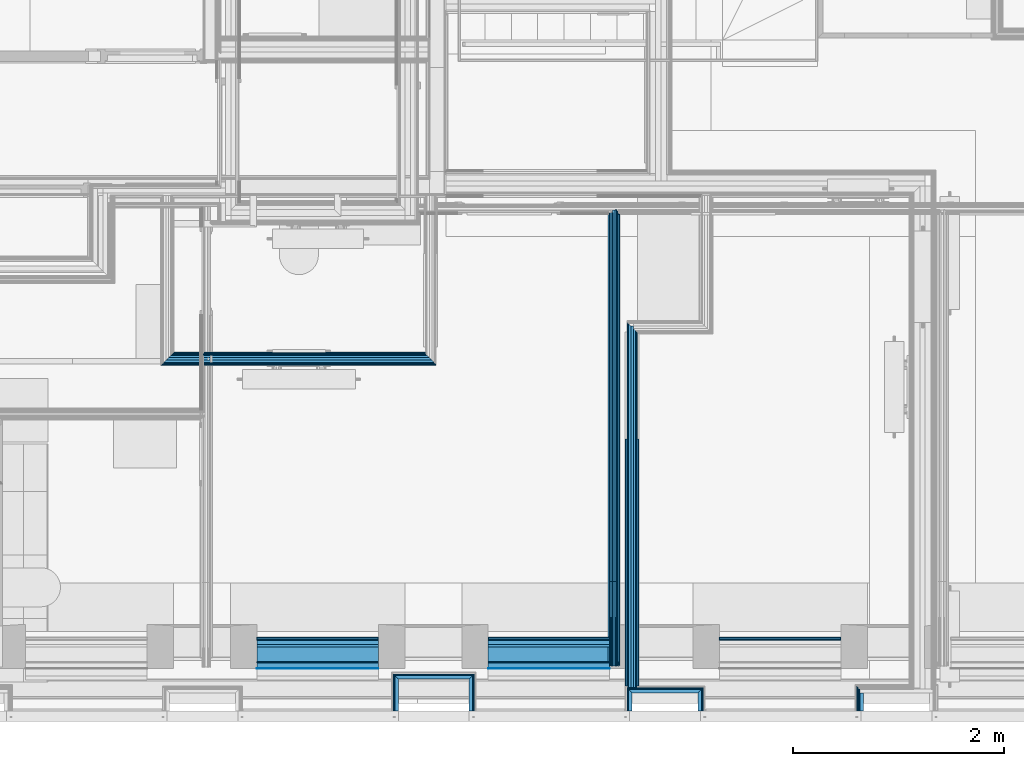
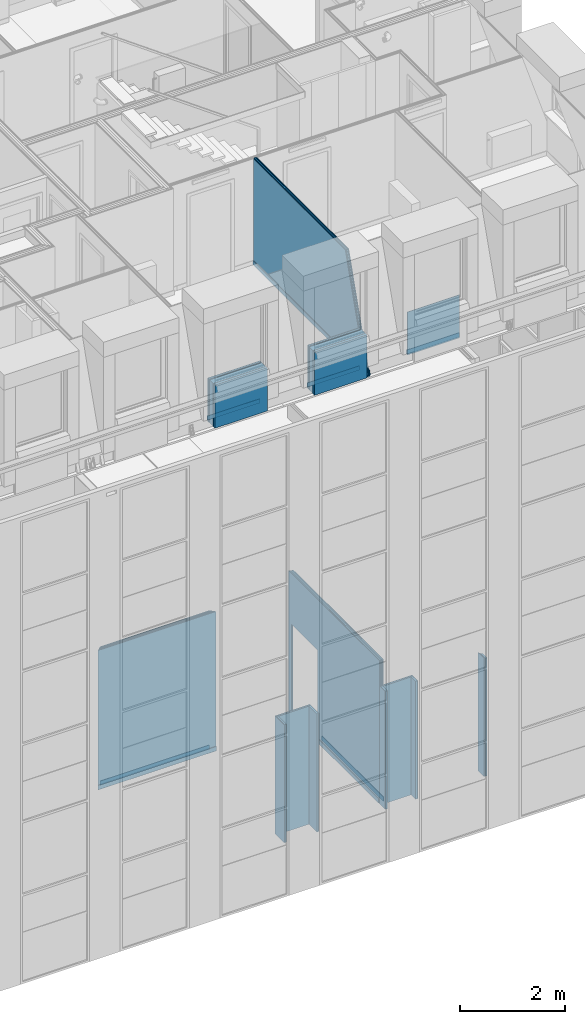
# One storey, part 34 of 169: 54 building element parts, 2 openings, 13 elements without a shape of their own.
"""IFC2X3 building model written with IfcOpenShell, lengths in metres."""

from ifc_helpers import new_model, entity, si_unit, converted_unit, derived_unit, money_unit, direction, frame, frame_2d, origin_with_axes, place, context, subcontext, project, spatial, polyline, rectangle, outline, extrude, clip, halfspace, material, type_object, element, aggregate, save


model = new_model("IFC2X3")

# Units and contexts
model_context = context("Model", 3, precision=1e-05, world=origin_with_axes(), true_north=direction((0.0, 1.0)))
body_context = subcontext(model_context, "Body", "Model", "MODEL_VIEW", scale=1.0)
ifc_project = project(units=[si_unit("LENGTHUNIT", "METRE"), si_unit("AREAUNIT", "SQUARE_METRE"), si_unit("VOLUMEUNIT", "CUBIC_METRE"), si_unit("ABSORBEDDOSEUNIT", "GRAY"), si_unit("AMOUNTOFSUBSTANCEUNIT", "MOLE"), si_unit("DOSEEQUIVALENTUNIT", "SIEVERT"), si_unit("ELECTRICCAPACITANCEUNIT", "FARAD"), si_unit("ELECTRICCHARGEUNIT", "COULOMB"), si_unit("ELECTRICCONDUCTANCEUNIT", "SIEMENS"), si_unit("ELECTRICCURRENTUNIT", "AMPERE"), si_unit("ELECTRICRESISTANCEUNIT", "OHM"), si_unit("ELECTRICVOLTAGEUNIT", "VOLT"), si_unit("ENERGYUNIT", "JOULE"), si_unit("FORCEUNIT", "NEWTON"), si_unit("FREQUENCYUNIT", "HERTZ"), si_unit("ILLUMINANCEUNIT", "LUX"), si_unit("INDUCTANCEUNIT", "HENRY"), si_unit("LUMINOUSFLUXUNIT", "LUMEN"), si_unit("LUMINOUSINTENSITYUNIT", "CANDELA"), si_unit("MAGNETICFLUXDENSITYUNIT", "TESLA"), si_unit("MAGNETICFLUXUNIT", "WEBER"), si_unit("MASSUNIT", "GRAM"), converted_unit("PLANEANGLEUNIT", "degree", entity("IfcReal", 0.0174532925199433), si_unit("PLANEANGLEUNIT", "RADIAN"), dimensions=[0, 0, 0, 0, 0, 0, 0]), si_unit("POWERUNIT", "WATT"), si_unit("PRESSUREUNIT", "PASCAL"), si_unit("RADIOACTIVITYUNIT", "BECQUEREL"), si_unit("SOLIDANGLEUNIT", "STERADIAN"), si_unit("THERMODYNAMICTEMPERATUREUNIT", "KELVIN"), si_unit("TIMEUNIT", "SECOND"), derived_unit("ACCELERATIONUNIT", [(si_unit("LENGTHUNIT", "METRE"), 1), (si_unit("TIMEUNIT", "SECOND"), -2)]), derived_unit("ANGULARVELOCITYUNIT", [(converted_unit("PLANEANGLEUNIT", "degree", entity("IfcReal", 0.0174532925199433), si_unit("PLANEANGLEUNIT", "RADIAN"), dimensions=[0, 0, 0, 0, 0, 0, 0]), 1), (si_unit("TIMEUNIT", "SECOND"), -1)]), derived_unit("CURVATUREUNIT", [(converted_unit("PLANEANGLEUNIT", "degree", entity("IfcReal", 0.0174532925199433), si_unit("PLANEANGLEUNIT", "RADIAN"), dimensions=[0, 0, 0, 0, 0, 0, 0]), 1), (si_unit("LENGTHUNIT", "METRE"), -1)]), derived_unit("DYNAMICVISCOSITYUNIT", [(si_unit("PRESSUREUNIT", "PASCAL"), 1), (si_unit("TIMEUNIT", "SECOND"), 1)]), derived_unit("HEATFLUXDENSITYUNIT", [(si_unit("POWERUNIT", "WATT"), 1), (si_unit("LENGTHUNIT", "METRE"), -2)]), derived_unit("HEATINGVALUEUNIT", [(si_unit("ENERGYUNIT", "JOULE"), 1), (si_unit("MASSUNIT", "GRAM"), -1)]), derived_unit("INTEGERCOUNTRATEUNIT", [(si_unit("TIMEUNIT", "SECOND"), -1)]), derived_unit("IONCONCENTRATIONUNIT", [(si_unit("MASSUNIT", "GRAM"), 1), (si_unit("VOLUMEUNIT", "CUBIC_METRE"), -1)]), derived_unit("ISOTHERMALMOISTURECAPACITYUNIT", [(si_unit("VOLUMEUNIT", "CUBIC_METRE"), 1), (si_unit("MASSUNIT", "GRAM"), -1)]), derived_unit("KINEMATICVISCOSITYUNIT", [(si_unit("AREAUNIT", "SQUARE_METRE"), 1), (si_unit("TIMEUNIT", "SECOND"), -1)]), derived_unit("LINEARFORCEUNIT", [(si_unit("FORCEUNIT", "NEWTON"), 1), (si_unit("LENGTHUNIT", "METRE"), -1)]), derived_unit("LINEARMOMENTUNIT", [(si_unit("FORCEUNIT", "NEWTON"), 1), (si_unit("LENGTHUNIT", "METRE"), -1)]), derived_unit("LINEARSTIFFNESSUNIT", [(si_unit("FORCEUNIT", "NEWTON"), 1), (si_unit("LENGTHUNIT", "METRE"), -1)]), derived_unit("LINEARVELOCITYUNIT", [(si_unit("LENGTHUNIT", "METRE"), 1), (si_unit("TIMEUNIT", "SECOND"), -1)]), derived_unit("LUMINOUSINTENSITYDISTRIBUTIONUNIT", [(si_unit("LUMINOUSINTENSITYUNIT", "CANDELA"), 1), (si_unit("LUMINOUSFLUXUNIT", "LUMEN"), -1)]), derived_unit("MASSDENSITYUNIT", [(si_unit("MASSUNIT", "GRAM"), 1), (si_unit("VOLUMEUNIT", "CUBIC_METRE"), -1)]), derived_unit("MASSFLOWRATEUNIT", [(si_unit("MASSUNIT", "GRAM"), 1), (si_unit("TIMEUNIT", "SECOND"), -1)]), derived_unit("MASSPERLENGTHUNIT", [(si_unit("MASSUNIT", "GRAM"), 1), (si_unit("LENGTHUNIT", "METRE"), -1)]), derived_unit("MODULUSOFELASTICITYUNIT", [(si_unit("FORCEUNIT", "NEWTON"), 1), (si_unit("AREAUNIT", "SQUARE_METRE"), -1)]), derived_unit("MODULUSOFLINEARSUBGRADEREACTIONUNIT", [(si_unit("FORCEUNIT", "NEWTON"), 1), (si_unit("LENGTHUNIT", "METRE"), -2)]), derived_unit("MODULUSOFROTATIONALSUBGRADEREACTIONUNIT", [(si_unit("FORCEUNIT", "NEWTON"), 1), (si_unit("LENGTHUNIT", "METRE"), 1)]), derived_unit("MODULUSOFSUBGRADEREACTIONUNIT", [(si_unit("FORCEUNIT", "NEWTON"), 1), (si_unit("VOLUMEUNIT", "CUBIC_METRE"), -1)]), derived_unit("MOISTUREDIFFUSIVITYUNIT", [(si_unit("VOLUMEUNIT", "CUBIC_METRE"), 1), (si_unit("TIMEUNIT", "SECOND"), -1)]), derived_unit("MOLECULARWEIGHTUNIT", [(si_unit("MASSUNIT", "GRAM"), 1), (si_unit("AMOUNTOFSUBSTANCEUNIT", "MOLE"), -1)]), derived_unit("PLANARFORCEUNIT", [(si_unit("FORCEUNIT", "NEWTON"), 1), (si_unit("LENGTHUNIT", "METRE"), -2)]), derived_unit("ROTATIONALFREQUENCYUNIT", [(si_unit("TIMEUNIT", "SECOND"), -1)]), derived_unit("ROTATIONALMASSUNIT", [(si_unit("MASSUNIT", "GRAM"), 1), (si_unit("LENGTHUNIT", "METRE"), 2)]), derived_unit("ROTATIONALSTIFFNESSUNIT", [(si_unit("FORCEUNIT", "NEWTON"), 1), (si_unit("LENGTHUNIT", "METRE"), 1), (converted_unit("PLANEANGLEUNIT", "degree", entity("IfcReal", 0.0174532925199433), si_unit("PLANEANGLEUNIT", "RADIAN"), dimensions=[0, 0, 0, 0, 0, 0, 0]), -1)]), derived_unit("SECTIONAREAINTEGRALUNIT", [(si_unit("LENGTHUNIT", "METRE"), 5)]), derived_unit("SECTIONMODULUSUNIT", [(si_unit("LENGTHUNIT", "METRE"), 3)]), derived_unit("SHEARMODULUSUNIT", [(si_unit("FORCEUNIT", "NEWTON"), 1), (si_unit("AREAUNIT", "SQUARE_METRE"), -1)]), derived_unit("SOUNDPOWERUNIT", [(si_unit("ENERGYUNIT", "JOULE"), 1), (si_unit("TIMEUNIT", "SECOND"), -1)]), derived_unit("SPECIFICHEATCAPACITYUNIT", [(si_unit("FORCEUNIT", "NEWTON"), 1), (si_unit("MASSUNIT", "GRAM"), -1), (si_unit("THERMODYNAMICTEMPERATUREUNIT", "KELVIN"), -1)]), derived_unit("TEMPERATUREGRADIENTUNIT", [(si_unit("THERMODYNAMICTEMPERATUREUNIT", "KELVIN"), 1), (si_unit("LENGTHUNIT", "METRE"), -1)]), derived_unit("THERMALADMITTANCEUNIT", [(si_unit("POWERUNIT", "WATT"), 1), (si_unit("AREAUNIT", "SQUARE_METRE"), -1), (si_unit("THERMODYNAMICTEMPERATUREUNIT", "KELVIN"), -1)]), derived_unit("THERMALCONDUCTANCEUNIT", [(si_unit("POWERUNIT", "WATT"), 1), (si_unit("LENGTHUNIT", "METRE"), -1), (si_unit("THERMODYNAMICTEMPERATUREUNIT", "KELVIN"), -1)]), derived_unit("THERMALEXPANSIONCOEFFICIENTUNIT", [(si_unit("THERMODYNAMICTEMPERATUREUNIT", "KELVIN"), -1)]), derived_unit("THERMALRESISTANCEUNIT", [(si_unit("AREAUNIT", "SQUARE_METRE"), 1), (si_unit("POWERUNIT", "WATT"), -1)]), derived_unit("THERMALTRANSMITTANCEUNIT", [(si_unit("POWERUNIT", "WATT"), 1), (si_unit("AREAUNIT", "SQUARE_METRE"), -1), (si_unit("THERMODYNAMICTEMPERATUREUNIT", "KELVIN"), -1)]), derived_unit("TORQUEUNIT", [(si_unit("FORCEUNIT", "NEWTON"), 1), (si_unit("LENGTHUNIT", "METRE"), 1)]), derived_unit("VAPORPERMEABILITYUNIT", [(si_unit("MASSUNIT", "GRAM"), 1), (si_unit("TIMEUNIT", "SECOND"), -1)]), derived_unit("VOLUMETRICFLOWRATEUNIT", [(si_unit("VOLUMEUNIT", "CUBIC_METRE"), 1), (si_unit("TIMEUNIT", "SECOND"), -1)]), derived_unit("WARPINGCONSTANTUNIT", [(si_unit("LENGTHUNIT", "METRE"), 6)]), derived_unit("WARPINGMOMENTUNIT", [(si_unit("FORCEUNIT", "NEWTON"), 1), (si_unit("LENGTHUNIT", "METRE"), 2)]), money_unit("GBP")], contexts=[model_context])

# Site, building, storey
site_placement = place(None, origin_with_axes())
site = spatial("IfcSite", under=ifc_project, at=site_placement, Name="Site", CompositionType="ELEMENT")
building_placement = place(site_placement, origin_with_axes())
building = spatial("IfcBuilding", under=site, at=building_placement, Name="Building01", CompositionType="ELEMENT")
storey_placement = place(building_placement, frame((0.0, 0.0, 5.15), z_axis=(0.0, 0.0, 1.0), x_axis=(1.0, 0.0, 0.0)))
storey = spatial("IfcBuildingStorey", under=building, at=storey_placement, Name="1F", CompositionType="ELEMENT", Elevation=5.15)

# Wall, building element parts
wall_type_1 = type_object("IfcWallType", Name="SHE_A-Walls_Type06d_ExternalWallInsulation_48mm", PredefinedType="NOTDEFINED")
wall_1_placement = place(storey_placement, frame((17.55, 0.1, 0.0), z_axis=(0.0, 0.0, 1.0), x_axis=(0.0, 1.0, 0.0)))
wall_1 = element("IfcWall", 1, at=wall_1_placement, inside=storey, type_object=wall_type_1, Name="6D", ObjectType="SHE_A-Walls_Type06d_ExternalWallInsulation_48mm")
ifc_material_1 = material(Name="A_BSUK_Insulation")
placement_1 = place(wall_1_placement, origin_with_axes())
building_element_part_1 = element("IfcBuildingElementPart", 2, at=placement_1, material=ifc_material_1, Name="1", context=body_context, shape_type="SweptSolid", body=[
    extrude(outline(polyline([(0.336, 0.036), (0.0, 0.036), (0.0, 0.0), (0.3, 0.0), (0.336, 0.036)])), origin_with_axes(), (0.0, 0.0, 1.0), 2.74),
])
ifc_material_2 = material(Name="A_BSUK_WallInternal_Finishes_Plasterboard")
building_element_part_2 = element("IfcBuildingElementPart", 3, at=placement_1, material=ifc_material_2, Name="2", context=body_context, shape_type="SweptSolid", body=[
    extrude(outline(polyline([(0.348, 0.048), (0.0, 0.048), (0.0, 0.035), (0.335, 0.035), (0.348, 0.048)])), origin_with_axes(), (0.0, 0.0, 1.0), 2.74),
])
aggregate(wall_1, [building_element_part_1, building_element_part_2])

wall_2_placement = place(storey_placement, frame((17.55, 0.4, 0.0), z_axis=(0.0, 0.0, 1.0), x_axis=(1.0, 0.0, 0.0)))
wall_2 = element("IfcWall", 4, at=wall_2_placement, inside=storey, type_object=wall_type_1, Name="6D", ObjectType="SHE_A-Walls_Type06d_ExternalWallInsulation_48mm")
placement_2 = place(wall_2_placement, origin_with_axes())
building_element_part_3 = element("IfcBuildingElementPart", 5, at=placement_2, material=ifc_material_1, Name="1", context=body_context, shape_type="SweptSolid", body=[
    extrude(outline(polyline([(0.706, 0.036), (-0.036, 0.036), (0.0, 0.0), (0.67, 0.0), (0.706, 0.036)])), origin_with_axes(), (0.0, 0.0, 1.0), 2.74),
])
building_element_part_4 = element("IfcBuildingElementPart", 6, at=placement_2, material=ifc_material_2, Name="2", context=body_context, shape_type="SweptSolid", body=[
    extrude(outline(polyline([(0.718, 0.048), (-0.048, 0.048), (-0.035, 0.035), (0.705, 0.035), (0.718, 0.048)])), origin_with_axes(), (0.0, 0.0, 1.0), 2.74),
])
aggregate(wall_2, [building_element_part_3, building_element_part_4])

wall_3_placement = place(storey_placement, frame((18.22, 0.4, 0.0), z_axis=(0.0, 0.0, 1.0), x_axis=(0.0, -1.0, 0.0)))
wall_3 = element("IfcWall", 7, at=wall_3_placement, inside=storey, type_object=wall_type_1, Name="6D", ObjectType="SHE_A-Walls_Type06d_ExternalWallInsulation_48mm")
placement_3 = place(wall_3_placement, origin_with_axes())
building_element_part_5 = element("IfcBuildingElementPart", 8, at=placement_3, material=ifc_material_1, Name="1", context=body_context, shape_type="SweptSolid", body=[
    extrude(outline(polyline([(-0.036, 0.036), (0.0, 0.0), (0.3, 0.0), (0.3, 0.036), (-0.036, 0.036)])), origin_with_axes(), (0.0, 0.0, 1.0), 2.74),
])
building_element_part_6 = element("IfcBuildingElementPart", 9, at=placement_3, material=ifc_material_2, Name="2", context=body_context, shape_type="SweptSolid", body=[
    extrude(outline(polyline([(-0.048, 0.048), (-0.035, 0.035), (0.3, 0.035), (0.3, 0.048), (-0.048, 0.048)])), origin_with_axes(), (0.0, 0.0, 1.0), 2.74),
])
aggregate(wall_3, [building_element_part_5, building_element_part_6])

# Wall, openings, building element parts
wall_type_2 = type_object("IfcWallType", Name="SHE_A-Walls_Type05a_Partition_95mm_tall", PredefinedType="NOTDEFINED")
wall_4_placement = place(storey_placement, frame((19.75, 3.745, 0.0), z_axis=(0.0, 0.0, 1.0), x_axis=(0.0, -1.0, 0.0)))
wall_4 = element("IfcWall", 10, at=wall_4_placement, inside=storey, type_object=wall_type_2, Name="5A", ObjectType="SHE_A-Walls_Type05a_Partition_95mm_tall")
opening_1_placement = place(wall_4_placement, frame((0.087, -0.035, 0.0), z_axis=(0.0, 0.0, 1.0), x_axis=(1.0, 0.0, 0.0)))
element("IfcOpeningElement", 11, at=opening_1_placement, cuts=wall_4, Name="Opening", ObjectType="Recess", context=body_context, shape_type="SweptSolid", body=[
    extrude(rectangle(XDim=2.142, YDim=0.984, at=frame_2d((-0.492, 1.071), x_axis=(0.0, 1.0))), frame((0.0, 0.0, 0.0), z_axis=(0.0, 1.0, 0.0), x_axis=(-1.0, 0.0, 0.0)), (0.0, 0.0, 1.0), 0.035),
])
opening_2_placement = place(wall_4_placement, frame((0.099, -0.05, 0.0), z_axis=(0.0, 0.0, 1.0), x_axis=(1.0, 0.0, 0.0)))
element("IfcOpeningElement", 12, at=opening_2_placement, cuts=wall_4, Name="Opening", ObjectType="Opening", context=body_context, shape_type="SweptSolid", body=[
    extrude(rectangle(XDim=0.9, YDim=2.127, at=frame_2d((-0.45, 1.0635), x_axis=(-1.0, 0.0))), frame((0.0, 0.0, 0.0), z_axis=(0.0, 1.0, 0.0), x_axis=(-1.0, 0.0, 0.0)), (0.0, 0.0, 1.0), 0.125),
    extrude(rectangle(XDim=0.9, YDim=2.142, at=frame_2d((-0.45, 1.056), x_axis=(-1.0, 0.0))), frame((0.0, 0.015, 0.0), z_axis=(0.0, 1.0, 0.0), x_axis=(-1.0, 0.0, 0.0)), (0.0, 0.0, 1.0), 0.012),
    extrude(rectangle(XDim=2.142, YDim=0.984, at=frame_2d((-0.48, 1.071), x_axis=(0.0, -1.0))), frame((0.0, 0.0, 0.0), z_axis=(0.0, 1.0, 0.0), x_axis=(-1.0, 0.0, 0.0)), (0.0, 0.0, 1.0), 0.015),
    extrude(rectangle(XDim=0.9, YDim=2.142, at=frame_2d((-0.45, 1.056), x_axis=(-1.0, 0.0))), frame((0.0, 0.027, 0.0), z_axis=(0.0, 1.0, 0.0), x_axis=(-1.0, 0.0, 0.0)), (0.0, 0.0, 1.0), 0.023),
    extrude(outline(polyline([(0.012, 2.127), (0.012, 2.142), (-0.972, 2.142), (-0.972, 0.0), (-0.494219, 0.0), (-0.494219, -0.015), (0.589781, -0.015), (0.589781, 2.127), (0.012, 2.127)])), frame((0.0, 0.05, 0.0), z_axis=(0.0, 1.0, 0.0), x_axis=(-1.0, 0.0, 0.0)), (0.0, 0.0, 1.0), 0.025),
    extrude(outline(polyline([(0.012, 2.127), (0.012, 2.142), (-0.972, 2.142), (-0.972, 0.0), (-0.494219, 0.0), (-0.494219, -0.015), (0.589781, -0.015), (0.589781, 2.127), (0.012, 2.127)])), frame((0.0, 0.075, 0.0), z_axis=(0.0, 1.0, 0.0), x_axis=(-1.0, 0.0, 0.0)), (0.0, 0.0, 1.0), 0.023),
    extrude(outline(polyline([(-0.972, 2.142), (-0.972, 0.0), (-0.9, 0.0), (-0.9, -0.015), (0.0, -0.015), (0.0, 0.0), (0.589781, 0.0), (0.589781, 2.142), (-0.972, 2.142)])), frame((0.0, 0.098, 0.0), z_axis=(0.0, 1.0, 0.0), x_axis=(-1.0, 0.0, 0.0)), (0.0, 0.0, 1.0), 0.012),
    extrude(rectangle(XDim=2.142, YDim=0.984, at=frame_2d((-0.48, 1.071), x_axis=(0.0, -1.0))), frame((0.0, 0.11, 0.0), z_axis=(0.0, 1.0, 0.0), x_axis=(-1.0, 0.0, 0.0)), (0.0, 0.0, 1.0), 0.015),
])
ifc_material_3 = material(Name="A_BSUK_Walls_Timber")
placement_4 = place(wall_4_placement, origin_with_axes())
building_element_part_7 = element("IfcBuildingElementPart", 13, at=placement_4, material=ifc_material_3, Name="1", context=body_context, shape_type="SweptSolid", body=[
    extrude(rectangle(XDim=2.344, YDim=0.015, at=frame_2d((2.24, -0.0425), x_axis=(-1.0, 0.0))), frame((0.0, 0.0, 0.015), z_axis=(0.0, 0.0, 1.0), x_axis=(1.0, 0.0, 0.0)), (0.0, 0.0, 1.0), 0.1),
])
building_element_part_8 = element("IfcBuildingElementPart", 14, at=placement_4, material=ifc_material_2, Name="2", context=body_context, shape_type="SweptSolid", body=[
    extrude(outline(polyline([(3.427, -0.023), (-0.023, -0.023), (-0.035, -0.035), (3.427, -0.035), (3.427, -0.023)])), origin_with_axes(), (0.0, 0.0, 1.0), 3.32),
])
ifc_material_4 = material(Name="Air Cavity")
building_element_part_9 = element("IfcBuildingElementPart", 15, at=placement_4, material=ifc_material_4, Name="3", context=body_context, shape_type="SweptSolid", body=[
    extrude(outline(polyline([(3.427, 0.0), (0.0, 0.0), (-0.023, -0.023), (3.427, -0.023), (3.427, 0.0)])), origin_with_axes(), (0.0, 0.0, 1.0), 3.32),
])
building_element_part_10 = element("IfcBuildingElementPart", 16, at=placement_4, material=ifc_material_1, Name="4", context=body_context, shape_type="SweptSolid", body=[
    extrude(rectangle(XDim=3.427, YDim=0.025, at=frame_2d((1.7135, 0.0125), x_axis=(-1.0, 0.0))), origin_with_axes(), (0.0, 0.0, 1.0), 3.32),
])
building_element_part_11 = element("IfcBuildingElementPart", 17, at=placement_4, material=ifc_material_4, Name="5", context=body_context, shape_type="SweptSolid", body=[
    extrude(rectangle(XDim=3.427, YDim=0.023, at=frame_2d((1.7135, 0.0365), x_axis=(-1.0, 0.0))), origin_with_axes(), (0.0, 0.0, 1.0), 3.32),
])
building_element_part_12 = element("IfcBuildingElementPart", 18, at=placement_4, material=ifc_material_2, Name="6", context=body_context, shape_type="SweptSolid", body=[
    extrude(outline(polyline([(3.427, 0.06), (0.06, 0.06), (0.048, 0.048), (3.427, 0.048), (3.427, 0.06)])), origin_with_axes(), (0.0, 0.0, 1.0), 3.32),
])
building_element_part_13 = element("IfcBuildingElementPart", 19, at=placement_4, material=ifc_material_3, Name="7", context=body_context, shape_type="SweptSolid", body=[
    extrude(rectangle(XDim=2.344, YDim=0.015, at=frame_2d((2.24, 0.0675), x_axis=(-1.0, 0.0))), frame((0.0, 0.0, 0.015), z_axis=(0.0, 0.0, 1.0), x_axis=(1.0, 0.0, 0.0)), (0.0, 0.0, 1.0), 0.1),
])
aggregate(wall_4, [building_element_part_7, building_element_part_8, building_element_part_9, building_element_part_10, building_element_part_11, building_element_part_12, building_element_part_13])

# Wall, building element parts
wall_5_placement = place(storey_placement, frame((17.8675, 3.42, 0.0), z_axis=(0.0, 0.0, 1.0), x_axis=(-1.0, 0.0, 0.0)))
wall_5 = element("IfcWall", 20, at=wall_5_placement, inside=storey, type_object=wall_type_2, Name="5A", ObjectType="SHE_A-Walls_Type05a_Partition_95mm_tall")
placement_5 = place(wall_5_placement, origin_with_axes())
building_element_part_14 = element("IfcBuildingElementPart", 21, at=placement_5, material=ifc_material_3, Name="1", context=body_context, shape_type="SweptSolid", body=[
    extrude(outline(polyline([(2.46, -0.06), (0.06, -0.06), (0.06, -0.075), (2.445, -0.075), (2.46, -0.06)])), frame((0.0, 0.0, 0.015), z_axis=(0.0, 0.0, 1.0), x_axis=(1.0, 0.0, 0.0)), (0.0, 0.0, 1.0), 0.1),
])
building_element_part_15 = element("IfcBuildingElementPart", 22, at=placement_5, material=ifc_material_2, Name="2", context=body_context, shape_type="SweptSolid", body=[
    extrude(outline(polyline([(2.472, -0.048), (0.048, -0.048), (0.06, -0.06), (2.46, -0.06), (2.472, -0.048)])), origin_with_axes(), (0.0, 0.0, 1.0), 3.24),
])
building_element_part_16 = element("IfcBuildingElementPart", 23, at=placement_5, material=ifc_material_4, Name="3", context=body_context, shape_type="SweptSolid", body=[
    extrude(outline(polyline([(2.495, -0.025), (0.025, -0.025), (0.048, -0.048), (2.472, -0.048), (2.495, -0.025)])), origin_with_axes(), (0.0, 0.0, 1.0), 3.24),
])
building_element_part_17 = element("IfcBuildingElementPart", 24, at=placement_5, material=ifc_material_1, Name="4", context=body_context, shape_type="SweptSolid", body=[
    extrude(outline(polyline([(2.52, 0.0), (0.0, 0.0), (0.025, -0.025), (2.495, -0.025), (2.52, 0.0)])), origin_with_axes(), (0.0, 0.0, 1.0), 3.24),
])
building_element_part_18 = element("IfcBuildingElementPart", 25, at=placement_5, material=ifc_material_4, Name="5", context=body_context, shape_type="SweptSolid", body=[
    extrude(outline(polyline([(2.543, 0.023), (-0.023, 0.023), (0.0, 0.0), (2.52, 0.0), (2.543, 0.023)])), origin_with_axes(), (0.0, 0.0, 1.0), 3.24),
])
building_element_part_19 = element("IfcBuildingElementPart", 26, at=placement_5, material=ifc_material_2, Name="6", context=body_context, shape_type="SweptSolid", body=[
    extrude(outline(polyline([(2.555, 0.035), (-0.035, 0.035), (-0.023, 0.023), (2.543, 0.023), (2.555, 0.035)])), origin_with_axes(), (0.0, 0.0, 1.0), 3.24),
])
building_element_part_20 = element("IfcBuildingElementPart", 27, at=placement_5, material=ifc_material_3, Name="7", context=body_context, shape_type="SweptSolid", body=[
    extrude(outline(polyline([(2.57, 0.05), (-0.035, 0.05), (-0.035, 0.035), (2.555, 0.035), (2.57, 0.05)])), frame((0.0, 0.0, 0.015), z_axis=(0.0, 0.0, 1.0), x_axis=(1.0, 0.0, 0.0)), (0.0, 0.0, 1.0), 0.1),
])
aggregate(wall_5, [building_element_part_14, building_element_part_15, building_element_part_16, building_element_part_17, building_element_part_18, building_element_part_19, building_element_part_20])

wall_type_3 = type_object("IfcWallType", Name="SHE_A-Walls_Type06f_ExternalWallInsulation_48+15mm", PredefinedType="NOTDEFINED")
wall_6_placement = place(storey_placement, frame((21.953, 0.1, 0.0), z_axis=(0.0, 0.0, 1.0), x_axis=(0.0, 1.0, 0.0)))
wall_6 = element("IfcWall", 28, at=wall_6_placement, inside=storey, type_object=wall_type_3, Name="6F", ObjectType="SHE_A-Walls_Type06f_ExternalWallInsulation_48+15mm")
placement_6 = place(wall_6_placement, origin_with_axes())
building_element_part_21 = element("IfcBuildingElementPart", 29, at=placement_6, material=ifc_material_1, Name="1", context=body_context, shape_type="SweptSolid", body=[
    extrude(rectangle(XDim=0.17, YDim=0.036, at=frame_2d((0.085, 0.018), x_axis=(-1.0, 0.0))), origin_with_axes(), (0.0, 0.0, 1.0), 2.74),
])
building_element_part_22 = element("IfcBuildingElementPart", 30, at=placement_6, material=ifc_material_2, Name="2", context=body_context, shape_type="SweptSolid", body=[
    extrude(rectangle(XDim=0.206, YDim=0.012, at=frame_2d((0.103, 0.042), x_axis=(-1.0, 0.0))), origin_with_axes(), (0.0, 0.0, 1.0), 2.74),
])
building_element_part_23 = element("IfcBuildingElementPart", 31, at=placement_6, material=ifc_material_2, Name="3", context=body_context, shape_type="SweptSolid", body=[
    extrude(outline(polyline([(0.233, 0.063), (0.0, 0.063), (0.0, 0.048), (0.218, 0.048), (0.233, 0.063)])), origin_with_axes(), (0.0, 0.0, 1.0), 2.74),
])
aggregate(wall_6, [building_element_part_21, building_element_part_22, building_element_part_23])

wall_7_placement = place(storey_placement, frame((19.763, 0.1, 0.0), z_axis=(0.0, 0.0, 1.0), x_axis=(0.0, 1.0, 0.0)))
wall_7 = element("IfcWall", 32, at=wall_7_placement, inside=storey, type_object=wall_type_1, Name="6D", ObjectType="SHE_A-Walls_Type06d_ExternalWallInsulation_48mm")
placement_7 = place(wall_7_placement, origin_with_axes())
building_element_part_24 = element("IfcBuildingElementPart", 33, at=placement_7, material=ifc_material_1, Name="1", context=body_context, shape_type="SweptSolid", body=[
    extrude(outline(polyline([(0.206, 0.036), (0.0, 0.036), (0.0, 0.0), (0.17, 0.0), (0.206, 0.036)])), origin_with_axes(), (0.0, 0.0, 1.0), 2.74),
])
building_element_part_25 = element("IfcBuildingElementPart", 34, at=placement_7, material=ifc_material_2, Name="2", context=body_context, shape_type="SweptSolid", body=[
    extrude(outline(polyline([(0.218, 0.048), (0.0, 0.048), (0.0, 0.035), (0.205, 0.035), (0.218, 0.048)])), origin_with_axes(), (0.0, 0.0, 1.0), 2.74),
])
aggregate(wall_7, [building_element_part_24, building_element_part_25])

wall_8_placement = place(storey_placement, frame((19.763, 0.27, 0.0), z_axis=(0.0, 0.0, 1.0), x_axis=(1.0, 0.0, 0.0)))
wall_8 = element("IfcWall", 35, at=wall_8_placement, inside=storey, type_object=wall_type_1, Name="6D", ObjectType="SHE_A-Walls_Type06d_ExternalWallInsulation_48mm")
placement_8 = place(wall_8_placement, origin_with_axes())
building_element_part_26 = element("IfcBuildingElementPart", 36, at=placement_8, material=ifc_material_1, Name="1", context=body_context, shape_type="SweptSolid", body=[
    extrude(outline(polyline([(0.66, 0.036), (-0.036, 0.036), (0.0, 0.0), (0.624, 0.0), (0.66, 0.036)])), origin_with_axes(), (0.0, 0.0, 1.0), 2.74),
])
building_element_part_27 = element("IfcBuildingElementPart", 37, at=placement_8, material=ifc_material_2, Name="2", context=body_context, shape_type="SweptSolid", body=[
    extrude(outline(polyline([(0.672, 0.048), (-0.048, 0.048), (-0.035, 0.035), (0.659, 0.035), (0.672, 0.048)])), origin_with_axes(), (0.0, 0.0, 1.0), 2.74),
])
aggregate(wall_8, [building_element_part_26, building_element_part_27])

wall_9_placement = place(storey_placement, frame((20.387, 0.27, 0.0), z_axis=(0.0, 0.0, 1.0), x_axis=(0.0, -1.0, 0.0)))
wall_9 = element("IfcWall", 38, at=wall_9_placement, inside=storey, type_object=wall_type_1, Name="6D", ObjectType="SHE_A-Walls_Type06d_ExternalWallInsulation_48mm")
placement_9 = place(wall_9_placement, origin_with_axes())
building_element_part_28 = element("IfcBuildingElementPart", 39, at=placement_9, material=ifc_material_1, Name="1", context=body_context, shape_type="SweptSolid", body=[
    extrude(outline(polyline([(-0.036, 0.036), (0.0, 0.0), (0.17, 0.0), (0.17, 0.036), (-0.036, 0.036)])), origin_with_axes(), (0.0, 0.0, 1.0), 2.74),
])
building_element_part_29 = element("IfcBuildingElementPart", 40, at=placement_9, material=ifc_material_2, Name="2", context=body_context, shape_type="SweptSolid", body=[
    extrude(outline(polyline([(-0.048, 0.048), (-0.035, 0.035), (0.17, 0.035), (0.17, 0.048), (-0.048, 0.048)])), origin_with_axes(), (0.0, 0.0, 1.0), 2.74),
])
aggregate(wall_9, [building_element_part_28, building_element_part_29])

wall_type_4 = type_object("IfcWallType", Name="SHE_A-Walls_Type05b_Partition_80mm", PredefinedType="NOTDEFINED")
wall_10_placement = place(storey_placement, frame((19.576976, 4.844, 9.83), z_axis=(0.0, 0.0, 1.0), x_axis=(0.0, -1.0, 0.0)))
wall_10 = element("IfcWall", 41, at=wall_10_placement, inside=storey, type_object=wall_type_4, Name="5B", ObjectType="SHE_A-Walls_Type05b_Partition_80mm")
placement_10 = place(wall_10_placement, origin_with_axes())
building_element_part_30 = element("IfcBuildingElementPart", 42, at=placement_10, material=ifc_material_3, Name="1", context=body_context, shape_type="Clipping", body=[
    clip(extrude(rectangle(XDim=4.28827, YDim=0.015, at=frame_2d((2.171135, -0.0345), x_axis=(-1.0, 0.0))), frame((0.0, 0.0, 0.015), z_axis=(0.0, 0.0, 1.0), x_axis=(1.0, 0.0, 0.0)), (0.0, 0.0, 1.0), 0.1), halfspace(frame((3.907606, 0.0, 1.269658), z_axis=(-0.95105652, 0.0, -0.30901699), x_axis=(0.0, -1.0, 0.0)), True)),
])
building_element_part_31 = element("IfcBuildingElementPart", 43, at=placement_10, material=ifc_material_2, Name="2", context=body_context, shape_type="Clipping", body=[
    clip(extrude(rectangle(XDim=4.293143, YDim=0.015, at=frame_2d((2.173572, -0.0195), x_axis=(-1.0, 0.0))), origin_with_axes(), (0.0, 0.0, 1.0), 2.468), halfspace(frame((3.907606, 0.0, 1.269658), z_axis=(-0.95105652, 0.0, -0.30901699), x_axis=(0.0, -1.0, 0.0)), True)),
])
building_element_part_32 = element("IfcBuildingElementPart", 44, at=placement_10, material=ifc_material_4, Name="3", context=body_context, shape_type="Clipping", body=[
    clip(extrude(rectangle(XDim=4.293143, YDim=0.012, at=frame_2d((2.173572, -0.006), x_axis=(-1.0, 0.0))), origin_with_axes(), (0.0, 0.0, 1.0), 2.468), halfspace(frame((3.907606, 0.0, 1.269658), z_axis=(-0.95105652, 0.0, -0.30901699), x_axis=(0.0, -1.0, 0.0)), True)),
])
building_element_part_33 = element("IfcBuildingElementPart", 45, at=placement_10, material=ifc_material_1, Name="4", context=body_context, shape_type="Clipping", body=[
    clip(extrude(rectangle(XDim=4.320143, YDim=0.025, at=frame_2d((2.160072, 0.0125), x_axis=(-1.0, 0.0))), origin_with_axes(), (0.0, 0.0, 1.0), 2.468), halfspace(frame((3.907606, 0.0, 1.269658), z_axis=(-0.95105652, 0.0, -0.30901699), x_axis=(0.0, -1.0, 0.0)), True)),
])
building_element_part_34 = element("IfcBuildingElementPart", 46, at=placement_10, material=ifc_material_4, Name="5", context=body_context, shape_type="Clipping", body=[
    clip(extrude(rectangle(XDim=4.320143, YDim=0.013, at=frame_2d((2.160072, 0.0315), x_axis=(-1.0, 0.0))), origin_with_axes(), (0.0, 0.0, 1.0), 2.468), halfspace(frame((3.907606, 0.0, 1.269658), z_axis=(-0.95105652, 0.0, -0.30901699), x_axis=(0.0, -1.0, 0.0)), True)),
])
building_element_part_35 = element("IfcBuildingElementPart", 47, at=placement_10, material=ifc_material_2, Name="6", context=body_context, shape_type="Clipping", body=[
    clip(extrude(rectangle(XDim=4.308143, YDim=0.015, at=frame_2d((2.166072, 0.0455), x_axis=(-1.0, 0.0))), origin_with_axes(), (0.0, 0.0, 1.0), 2.468), halfspace(frame((3.907606, 0.0, 1.269658), z_axis=(-0.95105652, 0.0, -0.30901699), x_axis=(0.0, -1.0, 0.0)), True)),
])
building_element_part_36 = element("IfcBuildingElementPart", 48, at=placement_10, material=ifc_material_3, Name="7", context=body_context, shape_type="Clipping", body=[
    clip(extrude(rectangle(XDim=4.27327, YDim=0.015, at=frame_2d((2.178635, 0.0605), x_axis=(-1.0, 0.0))), frame((0.0, 0.0, 0.015), z_axis=(0.0, 0.0, 1.0), x_axis=(1.0, 0.0, 0.0)), (0.0, 0.0, 1.0), 0.1), halfspace(frame((3.907606, 0.0, 1.269658), z_axis=(-0.95105652, 0.0, -0.30901699), x_axis=(0.0, -1.0, 0.0)), True)),
])
aggregate(wall_10, [building_element_part_30, building_element_part_31, building_element_part_32, building_element_part_33, building_element_part_34, building_element_part_35, building_element_part_36])

wall_type_5 = type_object("IfcWallType", Name="SHE_A-Walls_Type06e_ExternalWallPenthouse_280mm", PredefinedType="NOTDEFINED")
wall_11_placement = place(storey_placement, frame((21.739976, 0.565, 9.83), z_axis=(0.0, 0.0, 1.0), x_axis=(-1.0, 0.0, 0.0)))
wall_11 = element("IfcWall", 49, at=wall_11_placement, inside=storey, type_object=wall_type_5, Name="6E", ObjectType="SHE_A-Walls_Type06e_ExternalWallPenthouse_280mm")
placement_11 = place(wall_11_placement, origin_with_axes())
building_element_part_37 = element("IfcBuildingElementPart", 50, at=placement_11, material=ifc_material_3, Name="1", context=body_context, shape_type="SweptSolid", body=[
    extrude(rectangle(XDim=1.149951, YDim=0.015, at=frame_2d((0.574976, -0.2225), x_axis=(-1.0, 0.0))), frame((0.0, 0.0, 0.015), z_axis=(0.0, 0.0, 1.0), x_axis=(1.0, 0.0, 0.0)), (0.0, 0.0, 1.0), 0.1),
])
building_element_part_38 = element("IfcBuildingElementPart", 51, at=placement_11, material=ifc_material_2, Name="2", context=body_context, shape_type="SweptSolid", body=[
    extrude(rectangle(XDim=1.149951, YDim=0.01, at=frame_2d((0.574976, -0.21), x_axis=(-1.0, 0.0))), origin_with_axes(), (0.0, 0.0, 1.0), 1.0),
])
aggregate(wall_11, [building_element_part_37, building_element_part_38])

wall_12_placement = place(storey_placement, frame((19.549976, 0.565, 9.83), z_axis=(0.0, 0.0, 1.0), x_axis=(-1.0, 0.0, 0.0)))
wall_12 = element("IfcWall", 52, at=wall_12_placement, inside=storey, type_object=wall_type_5, Name="6E", ObjectType="SHE_A-Walls_Type06e_ExternalWallPenthouse_280mm")
placement_12 = place(wall_12_placement, origin_with_axes())
building_element_part_39 = element("IfcBuildingElementPart", 53, at=placement_12, material=ifc_material_3, Name="1", context=body_context, shape_type="SweptSolid", body=[
    extrude(rectangle(XDim=1.149951, YDim=0.015, at=frame_2d((0.574976, -0.2225), x_axis=(-1.0, 0.0))), frame((0.0, 0.0, 0.015), z_axis=(0.0, 0.0, 1.0), x_axis=(1.0, 0.0, 0.0)), (0.0, 0.0, 1.0), 0.1),
])
building_element_part_40 = element("IfcBuildingElementPart", 54, at=placement_12, material=ifc_material_2, Name="2", context=body_context, shape_type="SweptSolid", body=[
    extrude(rectangle(XDim=1.149951, YDim=0.01, at=frame_2d((0.574976, -0.21), x_axis=(-1.0, 0.0))), origin_with_axes(), (0.0, 0.0, 1.0), 1.0),
])
building_element_part_41 = element("IfcBuildingElementPart", 55, at=placement_12, material=ifc_material_1, Name="3", context=body_context, shape_type="SweptSolid", body=[
    extrude(rectangle(XDim=1.149951, YDim=0.04, at=frame_2d((0.574976, -0.185), x_axis=(-1.0, 0.0))), origin_with_axes(), (0.0, 0.0, 1.0), 1.0),
])
building_element_part_42 = element("IfcBuildingElementPart", 56, at=placement_12, material=ifc_material_4, Name="4", context=body_context, shape_type="SweptSolid", body=[
    extrude(rectangle(XDim=1.149951, YDim=0.025, at=frame_2d((0.574976, -0.1525), x_axis=(-1.0, 0.0))), origin_with_axes(), (0.0, 0.0, 1.0), 1.0),
])
building_element_part_43 = element("IfcBuildingElementPart", 57, at=placement_12, material=ifc_material_1, Name="5", context=body_context, shape_type="SweptSolid", body=[
    extrude(rectangle(XDim=1.149951, YDim=0.14, at=frame_2d((0.574976, -0.07), x_axis=(-1.0, 0.0))), origin_with_axes(), (0.0, 0.0, 1.0), 1.0),
])
building_element_part_44 = element("IfcBuildingElementPart", 58, at=placement_12, material=ifc_material_3, Name="6", context=body_context, shape_type="SweptSolid", body=[
    extrude(rectangle(XDim=1.149951, YDim=0.01, at=frame_2d((0.574976, 0.005), x_axis=(-1.0, 0.0))), origin_with_axes(), (0.0, 0.0, 1.0), 1.0),
])
building_element_part_45 = element("IfcBuildingElementPart", 59, at=placement_12, material=ifc_material_4, Name="7", context=body_context, shape_type="SweptSolid", body=[
    extrude(rectangle(XDim=1.149951, YDim=0.05, at=frame_2d((0.574976, 0.035), x_axis=(-1.0, 0.0))), origin_with_axes(), (0.0, 0.0, 1.0), 1.0),
])
ifc_material_5 = material(Name="A_BSUK_WallInternal_Finishes_Metal")
building_element_part_46 = element("IfcBuildingElementPart", 60, at=placement_12, material=ifc_material_5, Name="8", context=body_context, shape_type="SweptSolid", body=[
    extrude(rectangle(XDim=1.149951, YDim=0.005, at=frame_2d((0.574976, 0.0625), x_axis=(-1.0, 0.0))), origin_with_axes(), (0.0, 0.0, 1.0), 1.0),
])
aggregate(wall_12, [building_element_part_39, building_element_part_40, building_element_part_41, building_element_part_42, building_element_part_43, building_element_part_44, building_element_part_45, building_element_part_46])

wall_13_placement = place(storey_placement, frame((17.359976, 0.565, 9.83), z_axis=(0.0, 0.0, 1.0), x_axis=(-1.0, 0.0, 0.0)))
wall_13 = element("IfcWall", 61, at=wall_13_placement, inside=storey, type_object=wall_type_5, Name="6E", ObjectType="SHE_A-Walls_Type06e_ExternalWallPenthouse_280mm")
placement_13 = place(wall_13_placement, origin_with_axes())
building_element_part_47 = element("IfcBuildingElementPart", 62, at=placement_13, material=ifc_material_3, Name="1", context=body_context, shape_type="SweptSolid", body=[
    extrude(rectangle(XDim=1.149951, YDim=0.015, at=frame_2d((0.574976, -0.2225), x_axis=(-1.0, 0.0))), frame((0.0, 0.0, 0.015), z_axis=(0.0, 0.0, 1.0), x_axis=(1.0, 0.0, 0.0)), (0.0, 0.0, 1.0), 0.1),
])
building_element_part_48 = element("IfcBuildingElementPart", 63, at=placement_13, material=ifc_material_2, Name="2", context=body_context, shape_type="SweptSolid", body=[
    extrude(rectangle(XDim=1.149951, YDim=0.01, at=frame_2d((0.574976, -0.21), x_axis=(-1.0, 0.0))), origin_with_axes(), (0.0, 0.0, 1.0), 1.0),
])
building_element_part_49 = element("IfcBuildingElementPart", 64, at=placement_13, material=ifc_material_1, Name="3", context=body_context, shape_type="SweptSolid", body=[
    extrude(rectangle(XDim=1.149951, YDim=0.04, at=frame_2d((0.574976, -0.185), x_axis=(-1.0, 0.0))), origin_with_axes(), (0.0, 0.0, 1.0), 1.0),
])
building_element_part_50 = element("IfcBuildingElementPart", 65, at=placement_13, material=ifc_material_4, Name="4", context=body_context, shape_type="SweptSolid", body=[
    extrude(rectangle(XDim=1.149951, YDim=0.025, at=frame_2d((0.574976, -0.1525), x_axis=(-1.0, 0.0))), origin_with_axes(), (0.0, 0.0, 1.0), 1.0),
])
building_element_part_51 = element("IfcBuildingElementPart", 66, at=placement_13, material=ifc_material_1, Name="5", context=body_context, shape_type="SweptSolid", body=[
    extrude(rectangle(XDim=1.149951, YDim=0.14, at=frame_2d((0.574976, -0.07), x_axis=(-1.0, 0.0))), origin_with_axes(), (0.0, 0.0, 1.0), 1.0),
])
building_element_part_52 = element("IfcBuildingElementPart", 67, at=placement_13, material=ifc_material_3, Name="6", context=body_context, shape_type="SweptSolid", body=[
    extrude(rectangle(XDim=1.149951, YDim=0.01, at=frame_2d((0.574976, 0.005), x_axis=(-1.0, 0.0))), origin_with_axes(), (0.0, 0.0, 1.0), 1.0),
])
building_element_part_53 = element("IfcBuildingElementPart", 68, at=placement_13, material=ifc_material_4, Name="7", context=body_context, shape_type="SweptSolid", body=[
    extrude(rectangle(XDim=1.149951, YDim=0.05, at=frame_2d((0.574976, 0.035), x_axis=(-1.0, 0.0))), origin_with_axes(), (0.0, 0.0, 1.0), 1.0),
])
building_element_part_54 = element("IfcBuildingElementPart", 69, at=placement_13, material=ifc_material_5, Name="8", context=body_context, shape_type="SweptSolid", body=[
    extrude(rectangle(XDim=1.149951, YDim=0.005, at=frame_2d((0.574976, 0.0625), x_axis=(-1.0, 0.0))), origin_with_axes(), (0.0, 0.0, 1.0), 1.0),
])
aggregate(wall_13, [building_element_part_47, building_element_part_48, building_element_part_49, building_element_part_50, building_element_part_51, building_element_part_52, building_element_part_53, building_element_part_54])

save(model, "model.ifc")
